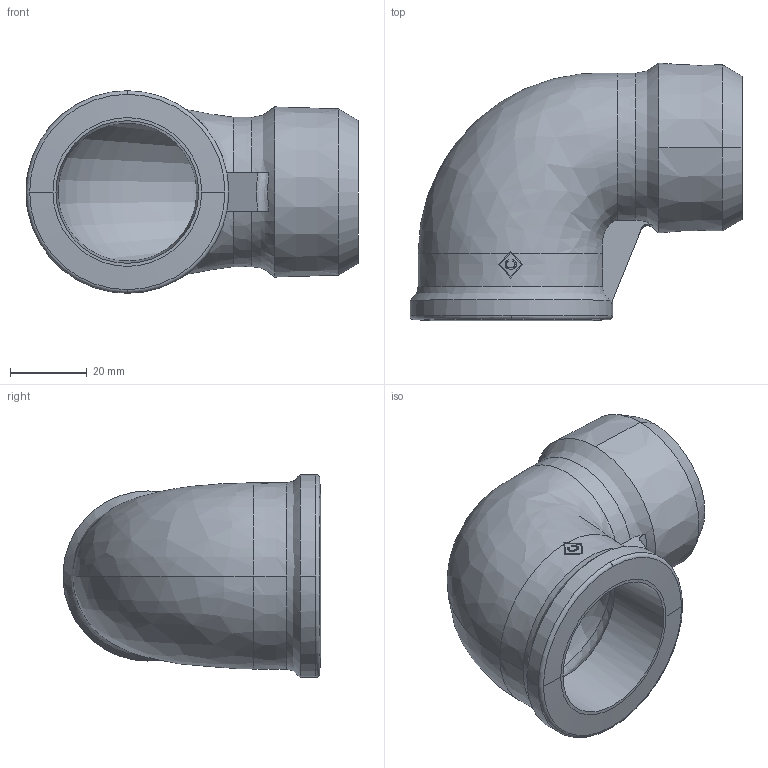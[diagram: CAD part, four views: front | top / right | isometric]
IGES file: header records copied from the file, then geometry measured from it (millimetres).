
Global section: file name: No Iges File Name specified; native system: AutoDesk Inventor R12.0; preprocessor: AutoDesk Inventor Iges Exporter R12.0; date: 20090916.093711; units: millimetre
Bounding box: 86.35 x 67.06 x 52.7 mm (x, y, z)
Volume: 56456.4 mm3; surface area: 25333 mm2
Topology: 1 solids, 1 shells, 52 faces, 180 edges, 130 vertices
Faces by surface type: bspline 26, plane 14, cone 6, cylinder 2, torus 2, revolution 2
